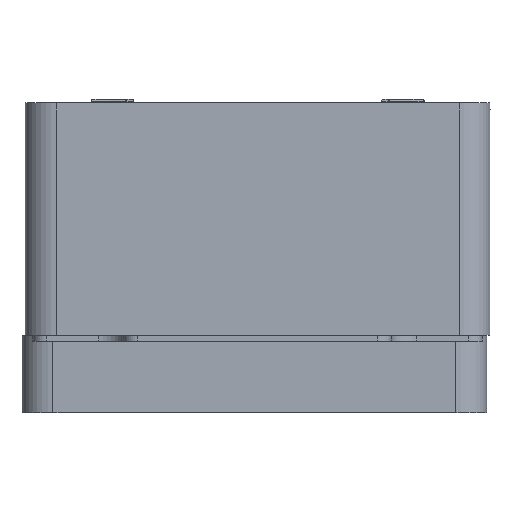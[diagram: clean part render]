
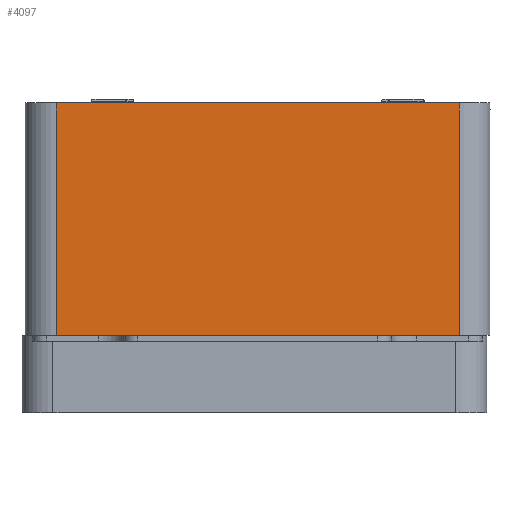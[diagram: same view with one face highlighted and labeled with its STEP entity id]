
A CAD part, left-side view. The second image highlights one B-rep face of the part: STEP entity #4097.
In plain terms, the highlighted planar face has unit normal (-1, 0, 0) as drawn and (1, 0, 0) by its records, which use the part's own axes.
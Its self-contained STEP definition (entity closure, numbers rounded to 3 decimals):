
#193 = LINE ( 'NONE', #18667, #9068 ) ;
#233 = VERTEX_POINT ( 'NONE', #2692 ) ;
#1653 = ORIENTED_EDGE ( 'NONE', *, *, #7272, .F. ) ;
#2692 = CARTESIAN_POINT ( 'NONE',  ( 61., 60., 52. ) ) ;
#3460 = VECTOR ( 'NONE', #4184, 1000. ) ;
#4097 = ADVANCED_FACE ( 'NONE', ( #26535 ), #11834, .F. ) ;
#4184 = DIRECTION ( 'NONE',  ( 0., 1., 0. ) ) ;
#4877 = EDGE_LOOP ( 'NONE', ( #25091, #6838, #1653, #8765 ) ) ;
#5167 = CARTESIAN_POINT ( 'NONE',  ( 61., 60., 52. ) ) ;
#6838 = ORIENTED_EDGE ( 'NONE', *, *, #9686, .T. ) ;
#7207 = DIRECTION ( 'NONE',  ( 0., -1., 0. ) ) ;
#7272 = EDGE_CURVE ( 'NONE', #233, #24607, #22129, .T. ) ;
#8765 = ORIENTED_EDGE ( 'NONE', *, *, #23039, .T. ) ;
#9068 = VECTOR ( 'NONE', #22618, 1000. ) ;
#9248 = LINE ( 'NONE', #5167, #19629 ) ;
#9476 = DIRECTION ( 'NONE',  ( 0., 0., -1. ) ) ;
#9686 = EDGE_CURVE ( 'NONE', #10892, #24607, #19238, .T. ) ;
#9758 = VECTOR ( 'NONE', #9476, 1000. ) ;
#10197 = VERTEX_POINT ( 'NONE', #23831 ) ;
#10892 = VERTEX_POINT ( 'NONE', #26176 ) ;
#11801 = CARTESIAN_POINT ( 'NONE',  ( 61., 60., -60. ) ) ;
#11834 = PLANE ( 'NONE',  #11859 ) ;
#11859 = AXIS2_PLACEMENT_3D ( 'NONE', #26123, #15623, #13590 ) ;
#13590 = DIRECTION ( 'NONE',  ( 0., 0., 1. ) ) ;
#15623 = DIRECTION ( 'NONE',  ( -1., 0., 0. ) ) ;
#15966 = CARTESIAN_POINT ( 'NONE',  ( 61., 60., -52. ) ) ;
#18667 = CARTESIAN_POINT ( 'NONE',  ( 61., 0., -60. ) ) ;
#18846 = EDGE_CURVE ( 'NONE', #10197, #10892, #193, .T. ) ;
#19238 = LINE ( 'NONE', #22811, #3460 ) ;
#19629 = VECTOR ( 'NONE', #7207, 1000. ) ;
#22129 = LINE ( 'NONE', #11801, #9758 ) ;
#22618 = DIRECTION ( 'NONE',  ( 0., 0., -1. ) ) ;
#22811 = CARTESIAN_POINT ( 'NONE',  ( 61., 60., -52. ) ) ;
#23039 = EDGE_CURVE ( 'NONE', #233, #10197, #9248, .T. ) ;
#23831 = CARTESIAN_POINT ( 'NONE',  ( 61., 0., 52. ) ) ;
#24607 = VERTEX_POINT ( 'NONE', #15966 ) ;
#25091 = ORIENTED_EDGE ( 'NONE', *, *, #18846, .T. ) ;
#26123 = CARTESIAN_POINT ( 'NONE',  ( 61., 60., -60. ) ) ;
#26176 = CARTESIAN_POINT ( 'NONE',  ( 61., 0., -52. ) ) ;
#26535 = FACE_OUTER_BOUND ( 'NONE', #4877, .T. ) ;
